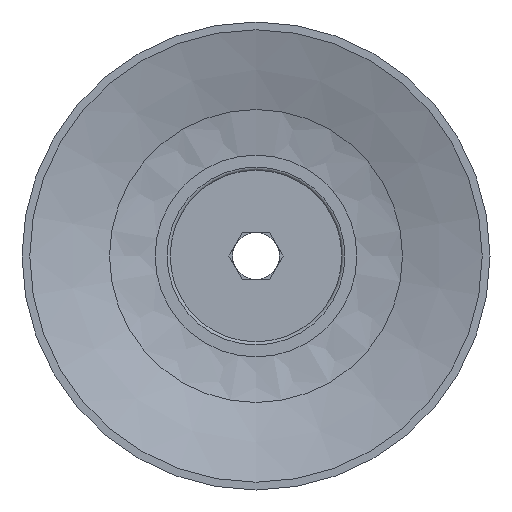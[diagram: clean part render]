
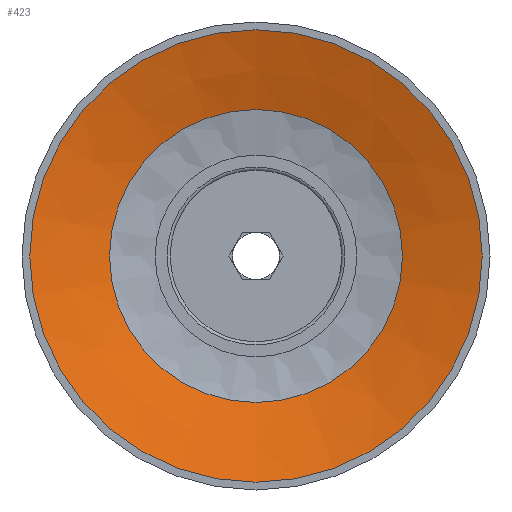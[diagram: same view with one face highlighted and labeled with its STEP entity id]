
A CAD part, front view. The second image highlights one B-rep face of the part: STEP entity #423.
In plain terms, the highlighted conical face has half-angle 73 degrees and reference radius 7.958 mm.
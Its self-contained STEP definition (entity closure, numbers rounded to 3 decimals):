
#423=ADVANCED_FACE('',(#641,#642),#643,.F.);
#641=FACE_BOUND('',#882,.T.);
#642=FACE_OUTER_BOUND('',#883,.T.);
#643=CONICAL_SURFACE('',#884,7.958,1.274);
#882=EDGE_LOOP('',(#1520));
#883=EDGE_LOOP('',(#1521));
#884=AXIS2_PLACEMENT_3D('',#1522,#1523,#1524);
#1520=ORIENTED_EDGE('',*,*,#1736,.T.);
#1521=ORIENTED_EDGE('',*,*,#1737,.T.);
#1522=CARTESIAN_POINT('',(0.0,9.363,0.0));
#1523=DIRECTION('',(-0.0,-1.0,0.));
#1524=DIRECTION('',(0.0,0.,-1.0));
#1736=EDGE_CURVE('',#2017,#2017,#2018,.T.);
#1737=EDGE_CURVE('',#2019,#2019,#2020,.T.);
#2017=VERTEX_POINT('',#2735);
#2018=CIRCLE('',#2736,9.388);
#2019=VERTEX_POINT('',#2737);
#2020=CIRCLE('',#2738,14.5);
#2735=CARTESIAN_POINT('',(0.0,8.926,-9.388));
#2736=AXIS2_PLACEMENT_3D('',#2994,#2995,#2996);
#2737=CARTESIAN_POINT('',(0.0,7.363,-14.5));
#2738=AXIS2_PLACEMENT_3D('',#2997,#2998,#2999);
#2994=CARTESIAN_POINT('',(0.0,8.926,0.0));
#2995=DIRECTION('',(0.0,1.0,0.));
#2996=DIRECTION('',(0.0,0.,-1.0));
#2997=CARTESIAN_POINT('',(0.0,7.363,0.0));
#2998=DIRECTION('',(0.0,-1.0,0.));
#2999=DIRECTION('',(0.0,0.,-1.0));
